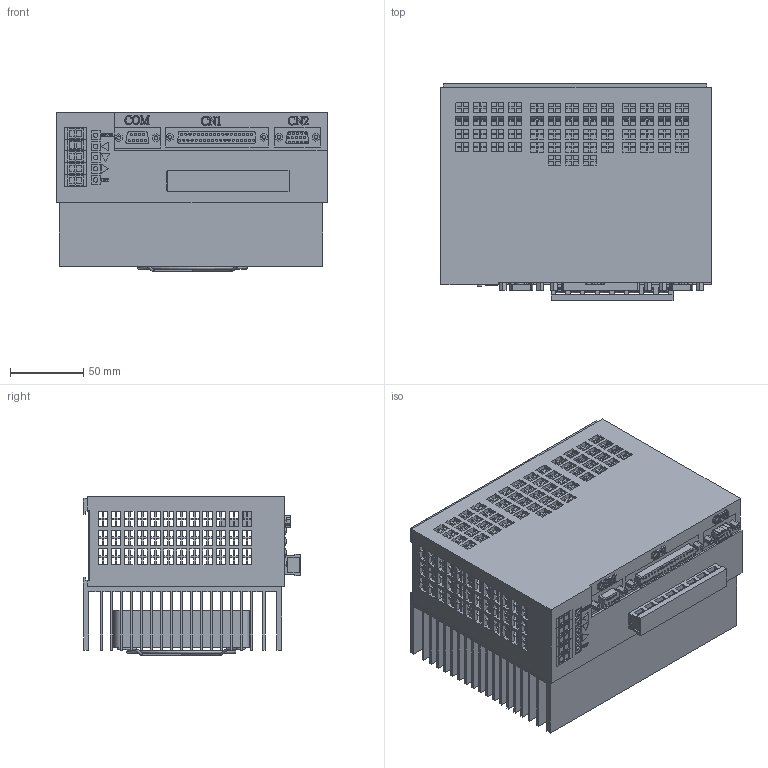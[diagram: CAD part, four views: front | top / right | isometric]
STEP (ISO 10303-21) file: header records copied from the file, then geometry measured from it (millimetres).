
FILE_DESCRIPTION(/* description */ ('Unknown'),/* implementation_level */ '2;1');
FILE_NAME(/* name */ '750組立',/* time_stamp */ '2021-05-04T08:56:50+08:00',/* author */ ('Unknown'),/* organization */ ('Unknown'),/* preprocessor_version */ 'ST-DEVELOPER v16.7',/* originating_system */ 'DEX',/* authorisation */ $);
FILE_SCHEMA (('AUTOMOTIVE_DESIGN {1 0 10303 214 3 1 1}'));
Products named in the file (11): 750組xt;rosebin; CSBL750¾T; 風Gb; 92.1-92.1風; 風扇; CSBL750外殼; cn1; cn2; COM; 顯示; 端黲
Assembly tree (10 placements, depth 3):
  750組xt;rosebin
    CSBL750¾T
    風Gb
      92.1-92.1風
      風扇
    CSBL750外殼
    cn1
    cn2
    COM
    顯示
    端黲
Bounding box: 183.9 x 148.2 x 108.24 mm (x, y, z)
Volume: 708358.1 mm3; surface area: 453744.4 mm2
Topology: 15 solids, 15 shells, 3344 faces, 10307 edges, 6745 vertices
Faces by surface type: plane 2753, cylinder 409, bspline 148, torus 32, sphere 2
Full cylindrical faces by diameter (mm): 1.5 x61, 1.6 x8, 1.62 x4, 2.459 x12, 3 x5, 4 x4, 6 x8, 60 x1, 89 x1
Entity records: 126774 total; most frequent: CARTESIAN_POINT 26651, ORIENTED_EDGE 20270, DIRECTION 16959, EDGE_CURVE 10135, LINE 8973, VECTOR 8973, VERTEX_POINT 6707, FACE_BOUND 4256
